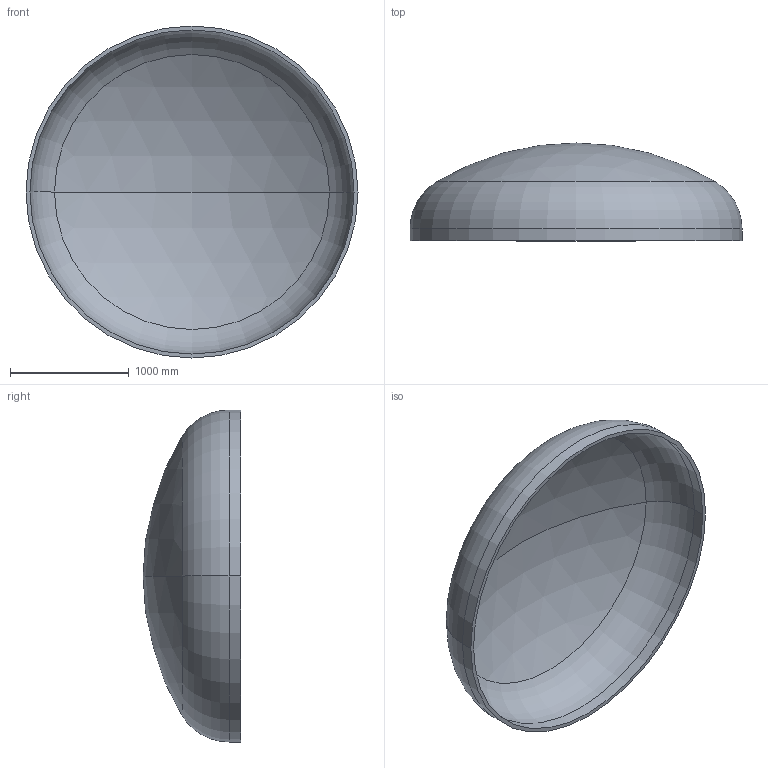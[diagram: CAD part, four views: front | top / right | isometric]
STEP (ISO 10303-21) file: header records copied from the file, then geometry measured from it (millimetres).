
FILE_DESCRIPTION (( 'STEP AP203' ), '1' );
FILE_NAME ('DIN 28013 Korbbogenform_-_Boden DIN 28013 - 2800 x 100 - I - s=33.step', '2016-07-01T16:54:05', ( '' ), ( '' ), 'SwSTEP 2.0', 'SolidWorks 2013', '' );
FILE_SCHEMA (( 'CONFIG_CONTROL_DESIGN' ));
Length unit declared in the file: millimetre
Products named in the file (1): DIN 28013 Korbbogenform_-_Boden DIN 28013 - 2800 x 100 - I - s=33
Bounding box: 2800 x 824.41 x 2800 mm (x, y, z)
Volume: 305609631.1 mm3; surface area: 18810931.9 mm2
Topology: 1 solids, 1 shells, 13 faces, 24 edges, 14 vertices
Faces by surface type: torus 4, cylinder 4, sphere 4, plane 1
Entity records: 407 total; most frequent: DIRECTION 72, CARTESIAN_POINT 52, ORIENTED_EDGE 48, AXIS2_PLACEMENT_3D 34, EDGE_CURVE 24, CIRCLE 20, VERTEX_POINT 14, EDGE_LOOP 14
